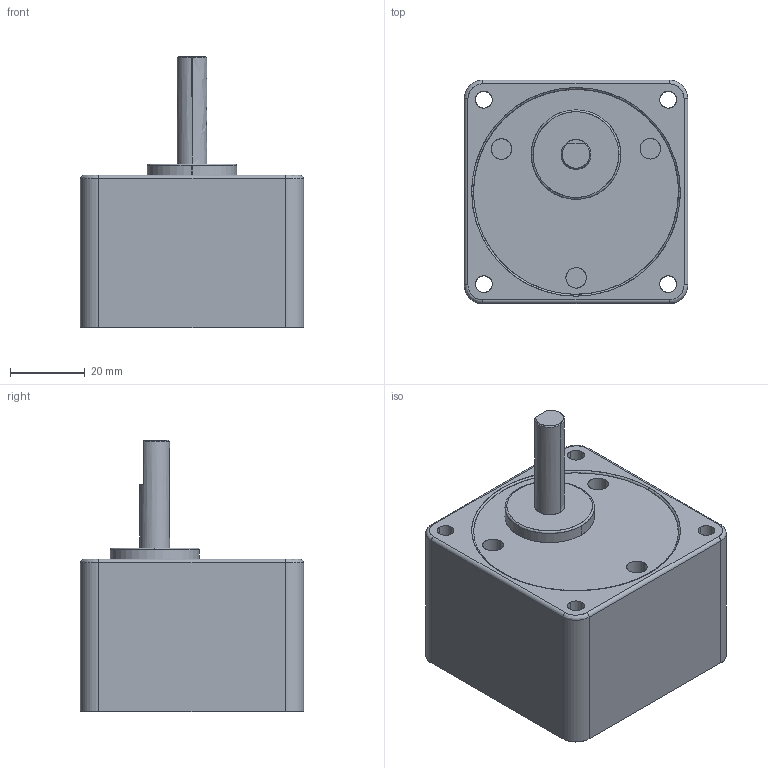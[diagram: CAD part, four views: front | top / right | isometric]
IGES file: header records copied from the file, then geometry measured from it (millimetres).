
Start section: SolidWorks IGES file using analytic representation for surfaces
Global section: file name: C:\Documents and Settings\user\ｹﾙﾅﾁ ﾈｭｸ饅(12-2) 6GBD｡潼H(25~250).IGS,1; native system: 5HSolidWorks 2007; preprocessor: SolidWorks 2007; author: user; date: 150825.152512; units: millimetre
Bounding box: 60 x 60 x 73 mm (x, y, z)
Surface area: 21567.3 mm2 (no closed solid volume)
Topology: 0 solids, 0 shells, 57 faces, 1167 edges, 1167 vertices
Faces by surface type: revolution 33, bspline 24
